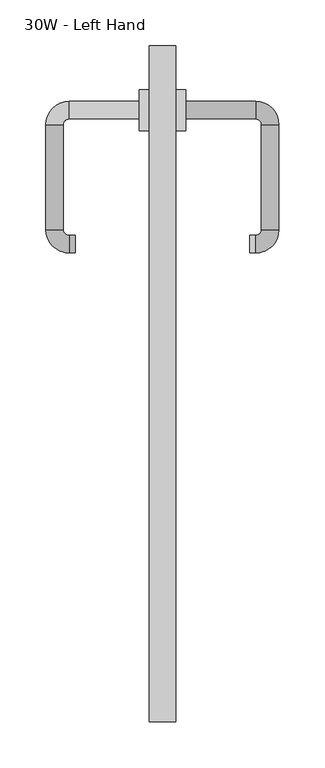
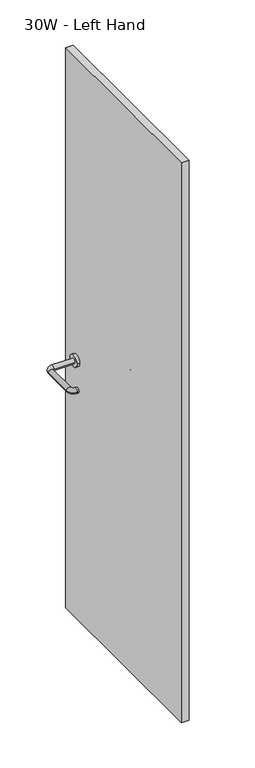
"""IFC4 building model written with IfcOpenShell, lengths in millimetres: furniture geometry, Steelcase - Montage - Door - Hinged Door : 30W - Left Hand."""

from ifc_helpers import new_model, si_unit, point, frame, frame_2d, origin, origin_with_axes, place, context, project, spatial, polyline, circle_curve, ellipse_curve, trimmed, segment, composite_curve, outline, extrude, source, transform, mapped, element, save
from ifc_brep_helpers import plane_surface, cylinder_surface, revolved_surface, advanced_brep


def furniture_30w_left_hand_6fa2456a(model_context):
    return source(origin(), model_context, "Body", "SolidModel", [
        extrude(outline(polyline([(41.2750004, 774.7000015), (41.2750004, 38.1000015), (12.7000004, 38.1000015), (12.7000004, 774.7000015), (41.2750004, 774.7000015)])), origin_with_axes(), (0.0, 0.0, 1.0), 2171.7),
        advanced_brep(
        [(52.3875004, 695.3250017, 1003.3), (52.3875004, 714.3750017, 1003.3), (128.5875062, 695.3250017, 1003.3), (128.5875062, 714.3750017, 1003.3), (153.9875009, 688.975007, 1003.3), (134.9375009, 688.975007, 1003.3), (134.9375009, 574.6749954, 1003.3), (153.9875009, 574.6749954, 1003.3), (128.5875062, 549.2750007, 1003.3), (128.5875062, 568.3250007, 1003.3), (122.2375004, 568.3250007, 1003.3), (122.2375004, 549.2750007, 1003.3)],
        [
            (0, 1, circle_curve(frame((52.3875004, 704.8500017, 1003.3), z_axis=(-1.0, 0.0, 0.0), x_axis=(0.0, 1.0, 0.0)), 9.525)),
            (1, 0, circle_curve(frame((52.3875004, 704.8500017, 1003.3), z_axis=(-1.0, 0.0, 0.0), x_axis=(0.0, 1.0, 0.0)), 9.525)),
            (0, 2),
            (2, 3, circle_curve(frame((128.5875062, 704.8500017, 1003.3), z_axis=(-1.0, 0.0, 0.0), x_axis=(0.0, 1.0, 0.0)), 9.525)),
            (3, 1),
            (3, 2, circle_curve(frame((128.5875062, 704.8500017, 1003.3), z_axis=(-1.0, 0.0, 0.0), x_axis=(0.0, 1.0, 0.0)), 9.525)),
            (4, 3, circle_curve(frame((128.5875062, 688.975007, 1003.3), z_axis=(0.0, 0.0, 1.0), x_axis=(0.0, 1.0, 0.0)), 25.3999947)),
            (2, 5, circle_curve(frame((128.5875062, 688.975007, 1003.3), z_axis=(0.0, 0.0, -1.0), x_axis=(0.0, 1.0, 0.0)), 6.3499947)),
            (5, 4, circle_curve(frame((144.4625009, 688.975007, 1003.3), z_axis=(0.0, 1.0, 0.0), x_axis=(1.0, 0.0, 0.0)), 9.525)),
            (4, 5, circle_curve(frame((144.4625009, 688.975007, 1003.3), z_axis=(0.0, 1.0, 0.0), x_axis=(1.0, 0.0, 0.0)), 9.525)),
            (5, 6),
            (6, 7, circle_curve(frame((144.4625009, 574.6749954, 1003.3), z_axis=(0.0, 1.0, 0.0), x_axis=(1.0, 0.0, 0.0)), 9.525)),
            (7, 4),
            (7, 6, circle_curve(frame((144.4625009, 574.6749954, 1003.3), z_axis=(0.0, 1.0, 0.0), x_axis=(1.0, 0.0, 0.0)), 9.525)),
            (8, 7, circle_curve(frame((128.5875062, 574.6749954, 1003.3), z_axis=(0.0, 0.0, 1.0), x_axis=(1.0, 0.0, 0.0)), 25.3999947)),
            (6, 9, circle_curve(frame((128.5875062, 574.6749954, 1003.3), z_axis=(0.0, 0.0, -1.0), x_axis=(1.0, 0.0, 0.0)), 6.3499947)),
            (9, 8, circle_curve(frame((128.5875062, 558.8000007, 1003.3), z_axis=(1.0, 0.0, 0.0), x_axis=(0.0, -1.0, 0.0)), 9.525)),
            (8, 9, circle_curve(frame((128.5875062, 558.8000007, 1003.3), z_axis=(1.0, 0.0, 0.0), x_axis=(0.0, -1.0, 0.0)), 9.525)),
            (10, 11, circle_curve(frame((122.2375004, 558.8000007, 1003.3), z_axis=(-1.0, 0.0, 0.0), x_axis=(0.0, -1.0, 0.0)), 9.525)),
            (11, 10, circle_curve(frame((122.2375004, 558.8000007, 1003.3), z_axis=(-1.0, 0.0, 0.0), x_axis=(0.0, -1.0, 0.0)), 9.525)),
            (9, 10),
            (11, 8),
        ],
        [
            plane_surface(frame((52.3875004, 704.8500017, 1003.3), z_axis=(-1.0, 0.0, 0.0), x_axis=(0.0, 0.0, 1.0))),
            cylinder_surface(frame((52.3875004, 704.8500017, 1003.3), z_axis=(-1.0, 0.0, 0.0), x_axis=(0.0, 1.0, 0.0)), 9.525),
            revolved_surface(trimmed(ellipse_curve(frame((128.5875062, 704.8500017, 1003.3), z_axis=(-1.0, 0.0, 0.0), x_axis=(0.0, 1.0, 0.0)), 9.525, 9.525), [point((128.5875062, 695.3250017, 1003.3))], [point((128.5875062, 714.3750017, 1003.3))], True, "CARTESIAN"), (128.5875062, 688.975007, 1003.3), (0.0, 0.0, -1.0)),
            revolved_surface(trimmed(ellipse_curve(frame((128.5875062, 704.8500017, 1003.3), z_axis=(-1.0, 0.0, 0.0), x_axis=(0.0, 1.0, 0.0)), 9.525, 9.525), [point((128.5875062, 714.3750017, 1003.3))], [point((128.5875062, 695.3250017, 1003.3))], True, "CARTESIAN"), (128.5875062, 688.975007, 1003.3), (0.0, 0.0, -1.0)),
            cylinder_surface(frame((144.4625009, 688.975007, 1003.3), z_axis=(0.0, 1.0, 0.0), x_axis=(1.0, 0.0, 0.0)), 9.525),
            revolved_surface(trimmed(ellipse_curve(frame((144.4625009, 574.6749954, 1003.3), z_axis=(0.0, 1.0, 0.0), x_axis=(1.0, 0.0, 0.0)), 9.525, 9.525), [point((134.9375009, 574.6749954, 1003.3))], [point((153.9875009, 574.6749954, 1003.3))], True, "CARTESIAN"), (128.5875062, 574.6749954, 1003.3), (0.0, 0.0, -1.0)),
            revolved_surface(trimmed(ellipse_curve(frame((144.4625009, 574.6749954, 1003.3), z_axis=(0.0, 1.0, 0.0), x_axis=(1.0, 0.0, 0.0)), 9.525, 9.525), [point((153.9875009, 574.6749954, 1003.3))], [point((134.9375009, 574.6749954, 1003.3))], True, "CARTESIAN"), (128.5875062, 574.6749954, 1003.3), (0.0, 0.0, -1.0)),
            plane_surface(frame((122.2375004, 558.8000007, 1003.3), z_axis=(-1.0, 0.0, 0.0), x_axis=(0.0, 0.0, 1.0))),
            cylinder_surface(frame((128.5875062, 558.8000007, 1003.3), z_axis=(1.0, 0.0, 0.0), x_axis=(0.0, -1.0, 0.0)), 9.525),
        ],
        [
            (0, [[1, 2]]),
            (1, [[-1, 3, 4, 5]]),
            (1, [[-2, -5, 6, -3]]),
            (2, [[7, -4, 8, 9]]),
            (3, [[-8, -6, -7, 10]]),
            (4, [[-9, 11, 12, 13]]),
            (4, [[-10, -13, 14, -11]]),
            (5, [[15, -12, 16, 17]]),
            (6, [[-16, -14, -15, 18]]),
            (7, [[19, 20]]),
            (8, [[-17, 21, -20, 22]]),
            (8, [[-18, -22, -19, -21]]),
        ],
    ),
        advanced_brep(
        [(1.5875004, 714.3750013, 1003.3), (1.5875004, 695.3250013, 1003.3), (-74.6125054, 714.3750013, 1003.3), (-74.6125054, 695.3250013, 1003.3), (-80.9624997, 688.975007, 1003.3), (-100.0124997, 688.975007, 1003.3), (-100.0124997, 574.6749954, 1003.3), (-80.9624997, 574.6749954, 1003.3), (-74.6125054, 568.3250012, 1003.3), (-74.6125054, 549.2750012, 1003.3), (-68.2624996, 549.2750012, 1003.3), (-68.2624996, 568.3250012, 1003.3)],
        [
            (0, 1, circle_curve(frame((1.5875004, 704.8500013, 1003.3), z_axis=(1.0, 0.0, 0.0), x_axis=(0.0, -1.0, 0.0)), 9.525)),
            (1, 0, circle_curve(frame((1.5875004, 704.8500013, 1003.3), z_axis=(1.0, 0.0, 0.0), x_axis=(0.0, -1.0, 0.0)), 9.525)),
            (0, 2),
            (2, 3, circle_curve(frame((-74.6125054, 704.8500013, 1003.3), z_axis=(1.0, 0.0, 0.0), x_axis=(0.0, -1.0, 0.0)), 9.525)),
            (3, 1),
            (3, 2, circle_curve(frame((-74.6125054, 704.8500013, 1003.3), z_axis=(1.0, 0.0, 0.0), x_axis=(0.0, -1.0, 0.0)), 9.525)),
            (4, 3, circle_curve(frame((-74.6125054, 688.975007, 1003.3), z_axis=(0.0, 0.0, -1.0), x_axis=(0.0, 1.0, 0.0)), 6.3499943)),
            (2, 5, circle_curve(frame((-74.6125054, 688.975007, 1003.3), z_axis=(0.0, 0.0, 1.0), x_axis=(0.0, 1.0, 0.0)), 25.3999943)),
            (5, 4, circle_curve(frame((-90.4874997, 688.975007, 1003.3), z_axis=(0.0, 1.0, 0.0), x_axis=(1.0, 0.0, 0.0)), 9.525)),
            (4, 5, circle_curve(frame((-90.4874997, 688.975007, 1003.3), z_axis=(0.0, 1.0, 0.0), x_axis=(1.0, 0.0, 0.0)), 9.525)),
            (5, 6),
            (6, 7, circle_curve(frame((-90.4874997, 574.6749954, 1003.3), z_axis=(0.0, 1.0, 0.0), x_axis=(1.0, 0.0, 0.0)), 9.525)),
            (7, 4),
            (7, 6, circle_curve(frame((-90.4874997, 574.6749954, 1003.3), z_axis=(0.0, 1.0, 0.0), x_axis=(1.0, 0.0, 0.0)), 9.525)),
            (8, 7, circle_curve(frame((-74.6125054, 574.6749954, 1003.3), z_axis=(0.0, 0.0, -1.0), x_axis=(-1.0, 0.0, 0.0)), 6.3499943)),
            (6, 9, circle_curve(frame((-74.6125054, 574.6749954, 1003.3), z_axis=(0.0, 0.0, 1.0), x_axis=(-1.0, 0.0, 0.0)), 25.3999943)),
            (9, 8, circle_curve(frame((-74.6125054, 558.8000012, 1003.3), z_axis=(-1.0, 0.0, 0.0), x_axis=(0.0, 1.0, 0.0)), 9.525)),
            (8, 9, circle_curve(frame((-74.6125054, 558.8000012, 1003.3), z_axis=(-1.0, 0.0, 0.0), x_axis=(0.0, 1.0, 0.0)), 9.525)),
            (10, 11, circle_curve(frame((-68.2624996, 558.8000012, 1003.3), z_axis=(1.0, 0.0, 0.0), x_axis=(0.0, 1.0, 0.0)), 9.525)),
            (11, 10, circle_curve(frame((-68.2624996, 558.8000012, 1003.3), z_axis=(1.0, 0.0, 0.0), x_axis=(0.0, 1.0, 0.0)), 9.525)),
            (9, 10),
            (11, 8),
        ],
        [
            plane_surface(frame((1.5875004, 704.8500013, 1003.3), z_axis=(1.0, 0.0, 0.0), x_axis=(0.0, 0.0, 1.0))),
            cylinder_surface(frame((1.5875004, 704.8500013, 1003.3), z_axis=(1.0, 0.0, 0.0), x_axis=(0.0, -1.0, 0.0)), 9.525),
            revolved_surface(trimmed(ellipse_curve(frame((-74.6125054, 704.8500013, 1003.3), z_axis=(1.0, 0.0, 0.0), x_axis=(0.0, -1.0, 0.0)), 9.525, 9.525), [point((-74.6125054, 714.3750013, 1003.3))], [point((-74.6125054, 695.3250013, 1003.3))], True, "CARTESIAN"), (-74.6125054, 688.975007, 1003.3), (0.0, 0.0, 1.0)),
            revolved_surface(trimmed(ellipse_curve(frame((-74.6125054, 704.8500013, 1003.3), z_axis=(1.0, 0.0, 0.0), x_axis=(0.0, -1.0, 0.0)), 9.525, 9.525), [point((-74.6125054, 695.3250013, 1003.3))], [point((-74.6125054, 714.3750013, 1003.3))], True, "CARTESIAN"), (-74.6125054, 688.975007, 1003.3), (0.0, 0.0, 1.0)),
            cylinder_surface(frame((-90.4874997, 688.975007, 1003.3), z_axis=(0.0, 1.0, 0.0), x_axis=(1.0, 0.0, 0.0)), 9.525),
            revolved_surface(trimmed(ellipse_curve(frame((-90.4874997, 574.6749954, 1003.3), z_axis=(0.0, 1.0, 0.0), x_axis=(1.0, 0.0, 0.0)), 9.525, 9.525), [point((-100.0124997, 574.6749954, 1003.3))], [point((-80.9624997, 574.6749954, 1003.3))], True, "CARTESIAN"), (-74.6125054, 574.6749954, 1003.3), (0.0, 0.0, 1.0)),
            revolved_surface(trimmed(ellipse_curve(frame((-90.4874997, 574.6749954, 1003.3), z_axis=(0.0, 1.0, 0.0), x_axis=(1.0, 0.0, 0.0)), 9.525, 9.525), [point((-80.9624997, 574.6749954, 1003.3))], [point((-100.0124997, 574.6749954, 1003.3))], True, "CARTESIAN"), (-74.6125054, 574.6749954, 1003.3), (0.0, 0.0, 1.0)),
            plane_surface(frame((-68.2624996, 558.8000012, 1003.3), z_axis=(1.0, 0.0, 0.0), x_axis=(0.0, 0.0, 1.0))),
            cylinder_surface(frame((-74.6125054, 558.8000012, 1003.3), z_axis=(-1.0, 0.0, 0.0), x_axis=(0.0, 1.0, 0.0)), 9.525),
        ],
        [
            (0, [[1, 2]]),
            (1, [[-1, 3, 4, 5]]),
            (1, [[-2, -5, 6, -3]]),
            (2, [[7, -4, 8, 9]]),
            (3, [[-8, -6, -7, 10]]),
            (4, [[-9, 11, 12, 13]]),
            (4, [[-10, -13, 14, -11]]),
            (5, [[15, -12, 16, 17]]),
            (6, [[-16, -14, -15, 18]]),
            (7, [[19, 20]]),
            (8, [[-17, 21, -20, 22]]),
            (8, [[-18, -22, -19, -21]]),
        ],
    ),
        extrude(outline(composite_curve([segment(trimmed(circle_curve(frame_2d((704.8500015, 1003.3)), 22.2250002), [point((682.6250012, 1003.3))], [point((727.0750017, 1003.3))], False, "CARTESIAN"), True, "CONTINUOUS"), segment(trimmed(circle_curve(frame_2d((704.8500015, 1003.3)), 22.2250002), [point((727.0750017, 1003.3))], [point((682.6250012, 1003.3))], False, "CARTESIAN"), True, "CONTINUOUS")], self_intersect=False)), frame((1.5240004, 0.0, 0.0), z_axis=(1.0, 0.0, 0.0), x_axis=(0.0, 1.0, 0.0)), (0.0, 0.0, 1.0), 11.176),
        extrude(outline(composite_curve([segment(trimmed(circle_curve(frame_2d((704.8500015, 1003.3)), 22.2250002), [point((682.6250012, 1003.3))], [point((727.0750017, 1003.3))], False, "CARTESIAN"), True, "CONTINUOUS"), segment(trimmed(circle_curve(frame_2d((704.8500015, 1003.3)), 22.2250002), [point((727.0750017, 1003.3))], [point((682.6250012, 1003.3))], False, "CARTESIAN"), True, "CONTINUOUS")], self_intersect=False)), frame((41.2750004, 0.0, 0.0), z_axis=(1.0, 0.0, 0.0), x_axis=(0.0, 1.0, 0.0)), (0.0, 0.0, 1.0), 11.176),
    ])


if __name__ == "__main__":
    model = new_model("IFC4")
    model_context = context("Model", 3, world=origin())
    ifc_project = project(units=[si_unit("LENGTHUNIT", "METRE", prefix="MILLI")], contexts=[model_context])
    site = spatial("IfcSite", under=ifc_project)
    building = spatial("IfcBuilding", under=site)
    placement = place(None, origin())
    furniture_30w_left_hand_shape = furniture_30w_left_hand_6fa2456a(model_context)
    element("IfcFurniture", 1, ObjectType="Steelcase - Montage - Door - Hinged Door : 30W - Left Hand", at=placement, inside=building, context=model_context, shape_type="MappedRepresentation", body=[
        mapped(furniture_30w_left_hand_shape, transform((0.0, 0.0, 0.0), x_axis=(1.0, 0.0, 0.0), y_axis=(0.0, 1.0, 0.0), z_axis=(0.0, 0.0, 1.0))),
    ])
    save(model, "model.ifc")
